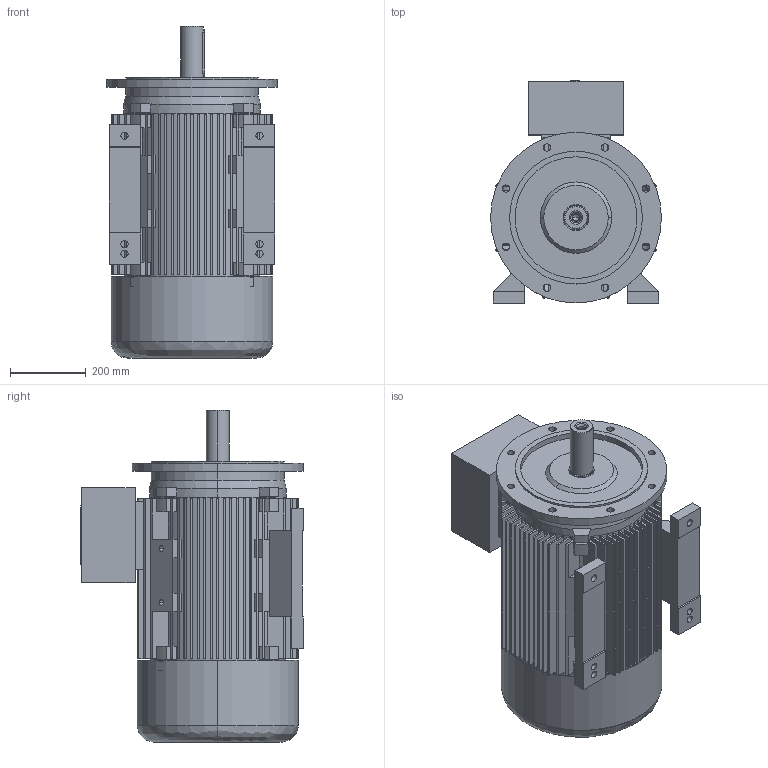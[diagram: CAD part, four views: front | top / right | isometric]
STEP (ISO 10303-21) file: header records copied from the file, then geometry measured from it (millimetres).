
FILE_DESCRIPTION (( 'STEP AP203' ), '1' );
FILE_NAME ('20.17508_C 7AT 225S&M -4, -6, -8 B35 Exde STANDK.STEP', '2018-05-21T06:59:59', ( '' ), ( '' ), 'SwSTEP 2.0', 'SolidWorks 2017', '' );
FILE_SCHEMA (( 'CONFIG_CONTROL_DESIGN' ));
Length unit declared in the file: millimetre
Products named in the file (1): 20.17508_C 7AT 225S&M -4, -6, -8 B35 Exde STANDK
Bounding box: 450 x 586 x 875 mm (x, y, z)
Volume: 38184292.6 mm3; surface area: 5447086.5 mm2
Topology: 9 solids, 9 shells, 857 faces, 2295 edges, 1507 vertices
Faces by surface type: plane 658, cylinder 148, cone 38, bspline 13
Entity records: 27347 total; most frequent: CARTESIAN_POINT 5479, ORIENTED_EDGE 4554, DIRECTION 4475, EDGE_CURVE 2277, VECTOR 1685, LINE 1685, VERTEX_POINT 1507, AXIS2_PLACEMENT_3D 1395
